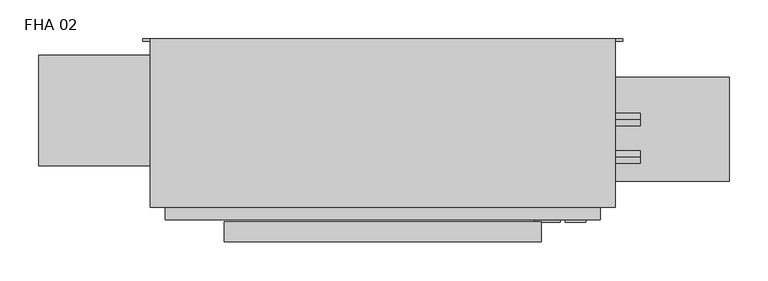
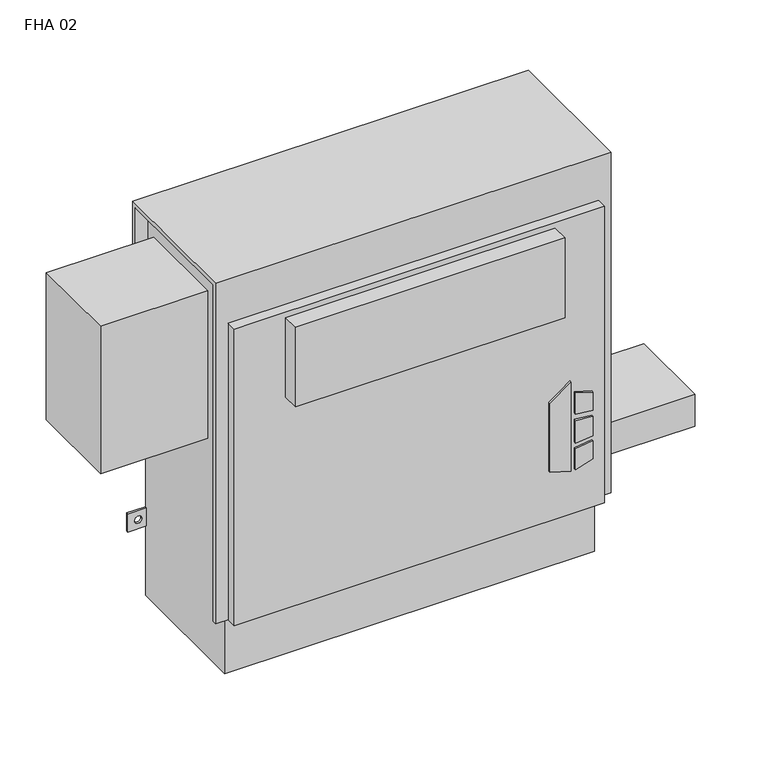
"""IFC4 building model written with IfcOpenShell, lengths in millimetres: proxy geometry, Vertical_Fan_Coil_Unit_-_FHA_-_IEC_-_2-Pipe_FS-FR_RH_2022 : FHA 02."""

from ifc_helpers import new_model, si_unit, point, frame, frame_2d, origin, place, context, project, spatial, polyline, circle_curve, trimmed, segment, composite_curve, outline, extrude, source, transform, mapped, element, save
from ifc_brep_helpers import plane_surface, revolved_surface, advanced_brep


def fha_02_43abc2e7(model_context):
    return source(origin(), model_context, "Body", "SolidModel", [
        extrude(outline(polyline([(172.5771459, 347.7368862), (162.6290756, 379.9102728), (304.8, 379.9102728), (281.7779939, 347.7368862), (172.5771459, 347.7368862)])), frame((0.0, 9.525, 0.0), z_axis=(0.0, 1.0, 0.0), x_axis=(0.0, 0.0, 1.0)), (0.0, 0.0, 1.0), 3.175),
        extrude(outline(polyline([(251.5764313, 386.6686058), (248.3740387, 412.75), (277.6028798, 412.75), (285.6672948, 386.6686058), (251.5764313, 386.6686058)])), frame((0.0, 9.525, 0.0), z_axis=(0.0, 1.0, 0.0), x_axis=(0.0, 0.0, 1.0)), (0.0, 0.0, 1.0), 3.175),
        extrude(outline(polyline([(199.7129044, 412.75), (196.0474034, 386.6686058), (162.6290756, 386.6686058), (171.2633128, 412.75), (199.7129044, 412.75)])), frame((0.0, 9.525, 0.0), z_axis=(0.0, 1.0, 0.0), x_axis=(0.0, 0.0, 1.0)), (0.0, 0.0, 1.0), 3.175),
        extrude(outline(polyline([(239.0280658, 412.75), (241.3098921, 386.6686058), (205.3723436, 386.6686058), (208.1136086, 412.75), (239.0280658, 412.75)])), frame((0.0, 9.525, 0.0), z_axis=(0.0, 1.0, 0.0), x_axis=(0.0, 0.0, 1.0)), (0.0, 0.0, 1.0), 3.175),
        extrude(outline(composite_curve([segment(trimmed(circle_curve(frame_2d((495.3, 128.5875)), 9.525), [point((485.775, 128.5875))], [point((504.825, 128.5875))], False, "CARTESIAN"), True, "CONTINUOUS"), segment(trimmed(circle_curve(frame_2d((495.3, 128.5875)), 9.525), [point((504.825, 128.5875))], [point((485.775, 128.5875))], False, "CARTESIAN"), True, "CONTINUOUS")], self_intersect=False)), frame((0.0, 0.0, 101.6), z_axis=(0.0, 0.0, 1.0), x_axis=(1.0, 0.0, 0.0)), (0.0, 0.0, 1.0), 25.4),
        extrude(outline(polyline([(596.9, 195.2625), (596.9, 61.9125), (431.8, 61.9125), (431.8, 195.2625), (596.9, 195.2625)])), frame((0.0, 0.0, 127.0), z_axis=(0.0, 0.0, 1.0), x_axis=(1.0, 0.0, 0.0)), (0.0, 0.0, 1.0), 50.8),
        extrude(outline(polyline([(355.6, -15.875), (-50.8, -15.875), (-50.8, 9.525), (355.6, 9.525), (355.6, -15.875)])), frame((0.0, 0.0, 431.8), z_axis=(0.0, 0.0, 1.0), x_axis=(1.0, 0.0, 0.0)), (0.0, 0.0, 1.0), 127.0),
        extrude(outline(composite_curve([segment(trimmed(circle_curve(frame_2d((93.1926, 488.0102)), 7.9375), [point((93.1926, 480.0727))], [point((93.1926, 495.9477))], False, "CARTESIAN"), True, "CONTINUOUS"), segment(trimmed(circle_curve(frame_2d((93.1926, 488.0102)), 7.9375), [point((93.1926, 495.9477))], [point((93.1926, 480.0727))], False, "CARTESIAN"), True, "CONTINUOUS")], self_intersect=False)), frame((431.8, 0.0, 0.0), z_axis=(1.0, 0.0, 0.0), x_axis=(0.0, 1.0, 0.0)), (0.0, 0.0, 1.0), 50.8),
        extrude(outline(composite_curve([segment(trimmed(circle_curve(frame_2d((141.3002, 461.3402)), 7.9375), [point((141.3002, 453.4027))], [point((141.3002, 469.2777))], False, "CARTESIAN"), True, "CONTINUOUS"), segment(trimmed(circle_curve(frame_2d((141.3002, 461.3402)), 7.9375), [point((141.3002, 469.2777))], [point((141.3002, 453.4027))], False, "CARTESIAN"), True, "CONTINUOUS")], self_intersect=False)), frame((431.8, 0.0, 0.0), z_axis=(1.0, 0.0, 0.0), x_axis=(0.0, 1.0, 0.0)), (0.0, 0.0, 1.0), 50.8),
        extrude(outline(polyline([(-127.0, 223.266), (-127.0, 81.534), (-288.925, 81.534), (-288.925, 223.266), (-127.0, 223.266)])), frame((0.0, 0.0, 349.25), z_axis=(0.0, 0.0, 1.0), x_axis=(1.0, 0.0, 0.0)), (0.0, 0.0, 1.0), 234.95),
        advanced_brep(
        [(450.85, 244.475, 635.0), (-146.05, 244.475, 635.0), (-146.05, 28.575, 635.0), (450.85, 28.575, 635.0), (-127.0, 244.475, 0.0), (431.8, 244.475, 0.0), (431.8, 38.1, 0.0), (-127.0, 38.1, 0.0), (450.85, 244.475, 558.8), (431.8, 244.475, 558.8), (431.8, 244.475, 414.3375), (460.375, 244.475, 414.3375), (460.375, 244.475, 385.7625), (431.8, 244.475, 385.7625), (431.8, 244.475, 287.3375), (460.375, 244.475, 287.3375), (460.375, 244.475, 258.7625), (431.8, 244.475, 258.7625), (431.8, 244.475, 141.2875), (460.375, 244.475, 141.2875), (460.375, 244.475, 112.7125), (431.8, 244.475, 112.7125), (-127.0, 244.475, 112.7125), (-155.575, 244.475, 112.7125), (-155.575, 244.475, 141.2875), (-127.0, 244.475, 141.2875), (-127.0, 244.475, 258.7625), (-155.575, 244.475, 258.7625), (-155.575, 244.475, 287.3375), (-127.0, 244.475, 287.3375), (-127.0, 244.475, 385.7625), (-155.575, 244.475, 385.7625), (-155.575, 244.475, 414.3375), (-127.0, 244.475, 414.3375), (-127.0, 244.475, 558.8), (-146.05, 244.475, 558.8), (450.0626, 244.475, 127.0), (438.9374, 244.475, 127.0), (-134.1374, 244.475, 127.0), (-145.2626, 244.475, 127.0), (450.0626, 244.475, 273.05), (438.9374, 244.475, 273.05), (-134.1374, 244.475, 273.05), (-145.2626, 244.475, 273.05), (450.0626, 244.475, 400.05), (438.9374, 244.475, 400.05), (-134.1374, 244.475, 400.05), (-145.2626, 244.475, 400.05), (-146.05, 238.125, 558.8), (-146.05, 238.125, 628.65), (-146.05, 34.925, 628.65), (-146.05, 34.925, 92.075), (-146.05, 28.575, 92.075), (431.8, 12.7, 565.15), (-127.0, 12.7, 565.15), (-127.0, 12.7, 92.075), (431.8, 12.7, 92.075), (450.85, 28.575, 92.075), (450.85, 34.925, 92.075), (450.85, 34.925, 628.65), (450.85, 238.125, 628.65), (450.85, 238.125, 558.8), (-127.0, 28.575, 92.075), (-127.0, 28.575, 565.15), (431.8, 28.575, 565.15), (431.8, 28.575, 92.075), (-127.0, 34.925, 92.075), (-127.0, 38.1, 92.075), (431.8, 38.1, 92.075), (431.8, 34.925, 92.075), (431.8, 241.3, 112.7125), (431.8, 241.3, 141.2875), (431.8, 241.3, 258.7625), (431.8, 241.3, 287.3375), (431.8, 241.3, 385.7625), (431.8, 241.3, 414.3375), (431.8, 238.125, 558.8), (431.8, 238.125, 628.65), (431.8, 34.925, 628.65), (-127.0, 34.925, 628.65), (-127.0, 238.125, 628.65), (-127.0, 238.125, 558.8), (-127.0, 241.3, 414.3375), (-127.0, 241.3, 385.7625), (-127.0, 241.3, 287.3375), (-127.0, 241.3, 258.7625), (-127.0, 241.3, 141.2875), (-127.0, 241.3, 112.7125), (460.375, 241.3, 112.7125), (460.375, 241.3, 141.2875), (438.9374, 241.3, 127.0), (450.0626, 241.3, 127.0), (460.375, 241.3, 258.7625), (460.375, 241.3, 287.3375), (438.9374, 241.3, 273.05), (450.0626, 241.3, 273.05), (460.375, 241.3, 385.7625), (460.375, 241.3, 414.3375), (438.9374, 241.3, 400.05), (450.0626, 241.3, 400.05), (-155.575, 241.3, 141.2875), (-155.575, 241.3, 112.7125), (-145.2626, 241.3, 127.0), (-134.1374, 241.3, 127.0), (-155.575, 241.3, 287.3375), (-155.575, 241.3, 258.7625), (-145.2626, 241.3, 273.05), (-134.1374, 241.3, 273.05), (-155.575, 241.3, 414.3375), (-155.575, 241.3, 385.7625), (-145.2626, 241.3, 400.05), (-134.1374, 241.3, 400.05)],
        [
            (0, 1),
            (1, 2),
            (2, 3),
            (3, 0),
            (4, 5),
            (5, 6),
            (6, 7),
            (7, 4),
            (0, 8),
            (8, 9),
            (9, 10),
            (10, 11),
            (11, 12),
            (12, 13),
            (13, 14),
            (14, 15),
            (15, 16),
            (16, 17),
            (17, 18),
            (18, 19),
            (19, 20),
            (20, 21),
            (21, 5),
            (4, 22),
            (22, 23),
            (23, 24),
            (24, 25),
            (25, 26),
            (26, 27),
            (27, 28),
            (28, 29),
            (29, 30),
            (30, 31),
            (31, 32),
            (32, 33),
            (33, 34),
            (34, 35),
            (35, 1),
            (36, 37, circle_curve(frame((444.5, 244.475, 127.0), z_axis=(0.0, -1.0, 0.0), x_axis=(-1.0, 0.0, 0.0)), 5.5626)),
            (37, 36, circle_curve(frame((444.5, 244.475, 127.0), z_axis=(0.0, -1.0, 0.0), x_axis=(-1.0, 0.0, 0.0)), 5.5626)),
            (38, 39, circle_curve(frame((-139.7, 244.475, 127.0), z_axis=(0.0, -1.0, 0.0), x_axis=(-1.0, 0.0, 0.0)), 5.5626)),
            (39, 38, circle_curve(frame((-139.7, 244.475, 127.0), z_axis=(0.0, -1.0, 0.0), x_axis=(-1.0, 0.0, 0.0)), 5.5626)),
            (40, 41, circle_curve(frame((444.5, 244.475, 273.05), z_axis=(0.0, -1.0, 0.0), x_axis=(-1.0, 0.0, 0.0)), 5.5626)),
            (41, 40, circle_curve(frame((444.5, 244.475, 273.05), z_axis=(0.0, -1.0, 0.0), x_axis=(-1.0, 0.0, 0.0)), 5.5626)),
            (42, 43, circle_curve(frame((-139.7, 244.475, 273.05), z_axis=(0.0, -1.0, 0.0), x_axis=(-1.0, 0.0, 0.0)), 5.5626)),
            (43, 42, circle_curve(frame((-139.7, 244.475, 273.05), z_axis=(0.0, -1.0, 0.0), x_axis=(-1.0, 0.0, 0.0)), 5.5626)),
            (44, 45, circle_curve(frame((444.5, 244.475, 400.05), z_axis=(0.0, -1.0, 0.0), x_axis=(-1.0, 0.0, 0.0)), 5.5626)),
            (45, 44, circle_curve(frame((444.5, 244.475, 400.05), z_axis=(0.0, -1.0, 0.0), x_axis=(-1.0, 0.0, 0.0)), 5.5626)),
            (46, 47, circle_curve(frame((-139.7, 244.475, 400.05), z_axis=(0.0, -1.0, 0.0), x_axis=(-1.0, 0.0, 0.0)), 5.5626)),
            (47, 46, circle_curve(frame((-139.7, 244.475, 400.05), z_axis=(0.0, -1.0, 0.0), x_axis=(-1.0, 0.0, 0.0)), 5.5626)),
            (35, 48),
            (48, 49),
            (49, 50),
            (50, 51),
            (51, 52),
            (52, 2),
            (53, 54),
            (54, 55),
            (55, 56),
            (56, 53),
            (3, 57),
            (57, 58),
            (58, 59),
            (59, 60),
            (60, 61),
            (61, 8),
            (52, 62),
            (62, 63),
            (63, 64),
            (64, 65),
            (65, 57),
            (53, 64),
            (63, 54),
            (55, 62),
            (51, 66),
            (66, 67),
            (67, 68),
            (68, 69),
            (69, 58),
            (65, 56),
            (6, 68),
            (67, 7),
            (21, 70),
            (70, 71),
            (71, 18),
            (17, 72),
            (72, 73),
            (73, 14),
            (13, 74),
            (74, 75),
            (75, 10),
            (9, 76),
            (76, 77),
            (77, 78),
            (78, 69),
            (66, 79),
            (79, 80),
            (80, 81),
            (81, 34),
            (33, 82),
            (82, 83),
            (83, 30),
            (29, 84),
            (84, 85),
            (85, 26),
            (25, 86),
            (86, 87),
            (87, 22),
            (76, 61),
            (60, 77),
            (78, 59),
            (50, 79),
            (81, 48),
            (80, 49),
            (70, 88),
            (88, 89),
            (89, 71),
            (90, 91, circle_curve(frame((444.5, 241.3, 127.0), z_axis=(0.0, 1.0, 0.0), x_axis=(-1.0, 0.0, 0.0)), 5.5626)),
            (91, 90, circle_curve(frame((444.5, 241.3, 127.0), z_axis=(0.0, 1.0, 0.0), x_axis=(-1.0, 0.0, 0.0)), 5.5626)),
            (92, 93),
            (93, 73),
            (72, 92),
            (94, 95, circle_curve(frame((444.5, 241.3, 273.05), z_axis=(0.0, 1.0, 0.0), x_axis=(-1.0, 0.0, 0.0)), 5.5626)),
            (95, 94, circle_curve(frame((444.5, 241.3, 273.05), z_axis=(0.0, 1.0, 0.0), x_axis=(-1.0, 0.0, 0.0)), 5.5626)),
            (96, 97),
            (97, 75),
            (74, 96),
            (98, 99, circle_curve(frame((444.5, 241.3, 400.05), z_axis=(0.0, 1.0, 0.0), x_axis=(-1.0, 0.0, 0.0)), 5.5626)),
            (99, 98, circle_curve(frame((444.5, 241.3, 400.05), z_axis=(0.0, 1.0, 0.0), x_axis=(-1.0, 0.0, 0.0)), 5.5626)),
            (100, 101),
            (101, 87),
            (86, 100),
            (102, 103, circle_curve(frame((-139.7, 241.3, 127.0), z_axis=(0.0, 1.0, 0.0), x_axis=(-1.0, 0.0, 0.0)), 5.5626)),
            (103, 102, circle_curve(frame((-139.7, 241.3, 127.0), z_axis=(0.0, 1.0, 0.0), x_axis=(-1.0, 0.0, 0.0)), 5.5626)),
            (84, 104),
            (104, 105),
            (105, 85),
            (106, 107, circle_curve(frame((-139.7, 241.3, 273.05), z_axis=(0.0, 1.0, 0.0), x_axis=(-1.0, 0.0, 0.0)), 5.5626)),
            (107, 106, circle_curve(frame((-139.7, 241.3, 273.05), z_axis=(0.0, 1.0, 0.0), x_axis=(-1.0, 0.0, 0.0)), 5.5626)),
            (108, 109),
            (109, 83),
            (82, 108),
            (110, 111, circle_curve(frame((-139.7, 241.3, 400.05), z_axis=(0.0, 1.0, 0.0), x_axis=(-1.0, 0.0, 0.0)), 5.5626)),
            (111, 110, circle_curve(frame((-139.7, 241.3, 400.05), z_axis=(0.0, 1.0, 0.0), x_axis=(-1.0, 0.0, 0.0)), 5.5626)),
            (89, 19),
            (88, 20),
            (16, 92),
            (93, 15),
            (12, 96),
            (97, 11),
            (24, 100),
            (101, 23),
            (105, 27),
            (104, 28),
            (32, 108),
            (109, 31),
            (90, 37),
            (36, 91),
            (102, 39),
            (38, 103),
            (94, 41),
            (40, 95),
            (106, 43),
            (42, 107),
            (98, 45),
            (44, 99),
            (110, 47),
            (46, 111),
        ],
        [
            plane_surface(frame((-146.05, 244.475, 635.0), z_axis=(0.0, 0.0, 1.0), x_axis=(-1.0, 0.0, 0.0))),
            plane_surface(frame((-146.05, 244.475, 0.0), z_axis=(0.0, 0.0, -1.0), x_axis=(1.0, 0.0, 0.0))),
            plane_surface(frame((450.85, 244.475, 635.0), z_axis=(0.0, 1.0, 0.0), x_axis=(0.0, 0.0, -1.0))),
            plane_surface(frame((-146.05, 244.475, 635.0), z_axis=(-1.0, 0.0, 0.0), x_axis=(0.0, 0.0, -1.0))),
            plane_surface(frame((-146.05, 12.7, 635.0), z_axis=(0.0, -1.0, 0.0), x_axis=(0.0, 0.0, -1.0))),
            plane_surface(frame((450.85, 12.7, 635.0), z_axis=(1.0, 0.0, 0.0), x_axis=(0.0, 0.0, -1.0))),
            plane_surface(frame((-146.05, 28.575, 635.0), z_axis=(0.0, -1.0, 0.0), x_axis=(1.0, 0.0, 0.0))),
            plane_surface(frame((-146.05, 28.575, 565.15), z_axis=(0.0, 0.0, 1.0), x_axis=(1.0, 0.0, 0.0))),
            plane_surface(frame((-146.05, 12.7, 92.075), z_axis=(0.0, 0.0, -1.0), x_axis=(1.0, 0.0, 0.0))),
            plane_surface(frame((-146.05, 38.1, 92.075), z_axis=(0.0, -1.0, 0.0), x_axis=(1.0, 0.0, 0.0))),
            plane_surface(frame((431.8, 28.575, 92.075), z_axis=(1.0, 0.0, 0.0), x_axis=(0.0, -1.0, 0.0))),
            plane_surface(frame((-127.0, 28.575, 565.15), z_axis=(-1.0, 0.0, 0.0), x_axis=(0.0, -1.0, 0.0))),
            plane_surface(frame((431.8, 244.475, 0.0), z_axis=(1.0, 0.0, 0.0), x_axis=(0.0, -1.0, 0.0))),
            plane_surface(frame((-127.0, 244.475, 92.075), z_axis=(-1.0, 0.0, 0.0), x_axis=(0.0, -1.0, 0.0))),
            plane_surface(frame((431.8, 238.125, 628.65), z_axis=(0.0, -1.0, 0.0), x_axis=(1.0, 0.0, 0.0))),
            plane_surface(frame((431.8, 238.125, 558.8), z_axis=(0.0, 0.0, -1.0), x_axis=(1.0, 0.0, 0.0))),
            plane_surface(frame((431.8, 34.925, 92.075), z_axis=(0.0, 1.0, 0.0), x_axis=(1.0, 0.0, 0.0))),
            plane_surface(frame((431.8, 34.925, 628.65), z_axis=(0.0, 0.0, -1.0), x_axis=(1.0, 0.0, 0.0))),
            plane_surface(frame((-127.0, 34.925, 628.65), z_axis=(0.0, 1.0, 0.0), x_axis=(-1.0, 0.0, 0.0))),
            plane_surface(frame((-127.0, 244.475, 558.8), z_axis=(0.0, 0.0, -1.0), x_axis=(-1.0, 0.0, 0.0))),
            plane_surface(frame((-127.0, 238.125, 558.8), z_axis=(0.0, -1.0, 0.0), x_axis=(-1.0, 0.0, 0.0))),
            plane_surface(frame((-127.0, 238.125, 628.65), z_axis=(0.0, 0.0, -1.0), x_axis=(-1.0, 0.0, 0.0))),
            plane_surface(frame((460.375, 241.3, 141.2875), z_axis=(0.0, -1.0, 0.0), x_axis=(-1.0, 0.0, 0.0))),
            plane_surface(frame((431.8, 244.475, 141.2875), z_axis=(0.0, 0.0, 1.0), x_axis=(0.0, -1.0, 0.0))),
            plane_surface(frame((460.375, 244.475, 141.2875), z_axis=(1.0, 0.0, 0.0), x_axis=(0.0, -1.0, 0.0))),
            plane_surface(frame((460.375, 244.475, 112.7125), z_axis=(0.0, 0.0, -1.0), x_axis=(0.0, -1.0, 0.0))),
            plane_surface(frame((460.375, 244.475, 258.7625), z_axis=(0.0, 0.0, -1.0), x_axis=(0.0, -1.0, 0.0))),
            plane_surface(frame((431.8, 244.475, 287.3375), z_axis=(0.0, 0.0, 1.0), x_axis=(0.0, -1.0, 0.0))),
            plane_surface(frame((460.375, 244.475, 287.3375), z_axis=(1.0, 0.0, 0.0), x_axis=(0.0, -1.0, 0.0))),
            plane_surface(frame((460.375, 244.475, 385.7625), z_axis=(0.0, 0.0, -1.0), x_axis=(0.0, -1.0, 0.0))),
            plane_surface(frame((431.8, 244.475, 414.3375), z_axis=(0.0, 0.0, 1.0), x_axis=(0.0, -1.0, 0.0))),
            plane_surface(frame((460.375, 244.475, 414.3375), z_axis=(1.0, 0.0, 0.0), x_axis=(0.0, -1.0, 0.0))),
            plane_surface(frame((-155.575, 244.475, 141.2875), z_axis=(0.0, 0.0, 1.0), x_axis=(0.0, -1.0, 0.0))),
            plane_surface(frame((-127.0, 244.475, 112.7125), z_axis=(0.0, 0.0, -1.0), x_axis=(0.0, -1.0, 0.0))),
            plane_surface(frame((-155.575, 244.475, 112.7125), z_axis=(-1.0, 0.0, 0.0), x_axis=(0.0, -1.0, 0.0))),
            plane_surface(frame((-127.0, 244.475, 258.7625), z_axis=(0.0, 0.0, -1.0), x_axis=(0.0, -1.0, 0.0))),
            plane_surface(frame((-155.575, 244.475, 258.7625), z_axis=(-1.0, 0.0, 0.0), x_axis=(0.0, -1.0, 0.0))),
            plane_surface(frame((-155.575, 244.475, 287.3375), z_axis=(0.0, 0.0, 1.0), x_axis=(0.0, -1.0, 0.0))),
            plane_surface(frame((-155.575, 244.475, 414.3375), z_axis=(0.0, 0.0, 1.0), x_axis=(0.0, -1.0, 0.0))),
            plane_surface(frame((-127.0, 244.475, 385.7625), z_axis=(0.0, 0.0, -1.0), x_axis=(0.0, -1.0, 0.0))),
            plane_surface(frame((-155.575, 244.475, 385.7625), z_axis=(-1.0, 0.0, 0.0), x_axis=(0.0, -1.0, 0.0))),
            revolved_surface(polyline([(438.9374, 241.3, 127.0), (438.9374, 244.475, 127.0)]), (444.5, 244.475, 127.0), (0.0, -1.0, 0.0)),
            revolved_surface(polyline([(-145.2626, 241.3, 127.0), (-145.2626, 244.475, 127.0)]), (-139.7, 244.475, 127.0), (0.0, -1.0, 0.0)),
            revolved_surface(polyline([(438.9374, 241.3, 273.05), (438.9374, 244.475, 273.05)]), (444.5, 244.475, 273.05), (0.0, -1.0, 0.0)),
            revolved_surface(polyline([(-145.2626, 241.3, 273.05), (-145.2626, 244.475, 273.05)]), (-139.7, 244.475, 273.05), (0.0, -1.0, 0.0)),
            revolved_surface(polyline([(438.9374, 241.3, 400.05), (438.9374, 244.475, 400.05)]), (444.5, 244.475, 400.05), (0.0, -1.0, 0.0)),
            revolved_surface(polyline([(-145.2626, 241.3, 400.05), (-145.2626, 244.475, 400.05)]), (-139.7, 244.475, 400.05), (0.0, -1.0, 0.0)),
        ],
        [
            (0, [[1, 2, 3, 4]]),
            (1, [[5, 6, 7, 8]]),
            (2, [[-1, 9, 10, 11, 12, 13, 14, 15, 16, 17, 18, 19, 20, 21, 22, 23, -5, 24, 25, 26, 27, 28, 29, 30, 31, 32, 33, 34, 35, 36, 37, 38], [39, 40], [41, 42], [43, 44], [45, 46], [47, 48], [49, 50]]),
            (3, [[-2, -38, 51, 52, 53, 54, 55, 56]]),
            (4, [[57, 58, 59, 60]]),
            (5, [[-4, 61, 62, 63, 64, 65, 66, -9]]),
            (6, [[-3, -56, 67, 68, 69, 70, 71, -61]]),
            (7, [[-57, 72, -69, 73]]),
            (8, [[-59, 74, -67, -55, 75, 76, 77, 78, 79, -62, -71, 80]]),
            (9, [[-7, 81, -77, 82]]),
            (10, [[-70, -72, -60, -80]]),
            (11, [[-68, -74, -58, -73]]),
            (12, [[-6, -23, 83, 84, 85, -19, 86, 87, 88, -15, 89, 90, 91, -11, 92, 93, 94, 95, -78, -81]]),
            (13, [[-8, -82, -76, 96, 97, 98, 99, -36, 100, 101, 102, -32, 103, 104, 105, -28, 106, 107, 108, -24]]),
            (14, [[-93, 109, -65, 110]]),
            (15, [[-92, -10, -66, -109]]),
            (16, [[-95, 111, -63, -79]]),
            (17, [[-94, -110, -64, -111]]),
            (18, [[-96, -75, -54, 112]]),
            (19, [[-99, 113, -51, -37]]),
            (20, [[-98, 114, -52, -113]]),
            (21, [[-97, -112, -53, -114]]),
            (22, [[115, 116, 117, -84], [118, 119]]),
            (22, [[120, 121, -87, 122], [123, 124]]),
            (22, [[125, 126, -90, 127], [128, 129]]),
            (22, [[130, 131, -107, 132], [133, 134]]),
            (22, [[135, 136, 137, -104], [138, 139]]),
            (22, [[140, 141, -101, 142], [143, 144]]),
            (23, [[-117, 145, -20, -85]]),
            (24, [[-116, 146, -21, -145]]),
            (25, [[-115, -83, -22, -146]]),
            (26, [[-122, -86, -18, 147]]),
            (27, [[-121, 148, -16, -88]]),
            (28, [[-120, -147, -17, -148]]),
            (29, [[-127, -89, -14, 149]]),
            (30, [[-126, 150, -12, -91]]),
            (31, [[-125, -149, -13, -150]]),
            (32, [[-132, -106, -27, 151]]),
            (33, [[-131, 152, -25, -108]]),
            (34, [[-130, -151, -26, -152]]),
            (35, [[-137, 153, -29, -105]]),
            (36, [[-136, 154, -30, -153]]),
            (37, [[-135, -103, -31, -154]]),
            (38, [[-142, -100, -35, 155]]),
            (39, [[-141, 156, -33, -102]]),
            (40, [[-140, -155, -34, -156]]),
            (41, [[157, -39, 158, -118]]),
            (41, [[-157, -119, -158, -40]]),
            (42, [[159, -41, 160, -133]]),
            (42, [[-159, -134, -160, -42]]),
            (43, [[161, -43, 162, -123]]),
            (43, [[-161, -124, -162, -44]]),
            (44, [[163, -45, 164, -138]]),
            (44, [[-163, -139, -164, -46]]),
            (45, [[165, -47, 166, -128]]),
            (45, [[-165, -129, -166, -48]]),
            (46, [[167, -49, 168, -143]]),
            (46, [[-167, -144, -168, -50]]),
        ],
    ),
    ])


if __name__ == "__main__":
    model = new_model("IFC4")
    model_context = context("Model", 3, world=origin())
    ifc_project = project(units=[si_unit("LENGTHUNIT", "METRE", prefix="MILLI")], contexts=[model_context])
    site = spatial("IfcSite", under=ifc_project)
    building = spatial("IfcBuilding", under=site)
    placement = place(None, origin())
    fha_02_shape = fha_02_43abc2e7(model_context)
    element("IfcBuildingElementProxy", 1, Name="Vertical_Fan_Coil_Unit_-_FHA_-_IEC_-_2-Pipe_FS-FR_RH_2022 : FHA 02", ObjectType="Vertical_Fan_Coil_Unit_-_FHA_-_IEC_-_2-Pipe_FS-FR_RH_2022 : FHA 02", at=placement, inside=building, context=model_context, shape_type="MappedRepresentation", body=[
        mapped(fha_02_shape, transform((0.0, 0.0, 0.0), x_axis=(1.0, 0.0, 0.0), y_axis=(0.0, 1.0, 0.0), z_axis=(0.0, 0.0, 1.0))),
    ])
    save(model, "model.ifc")
